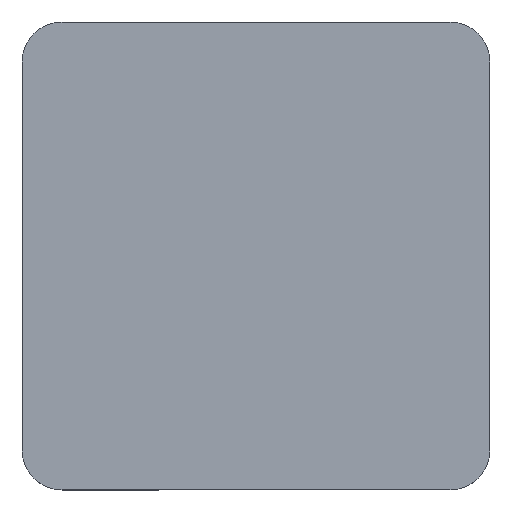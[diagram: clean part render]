
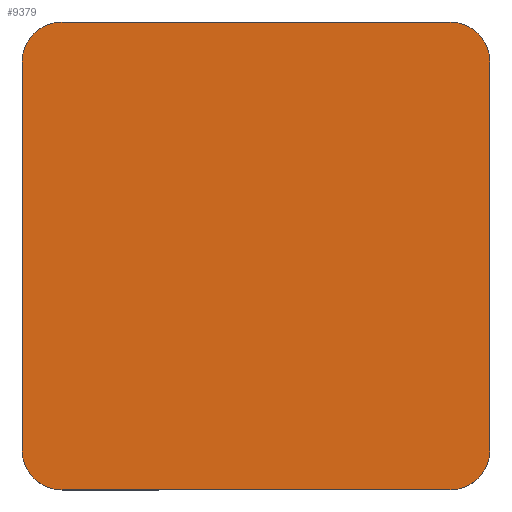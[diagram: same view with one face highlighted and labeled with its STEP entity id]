
A CAD part, top view. The second image highlights one B-rep face of the part: STEP entity #9379.
In plain terms, the highlighted planar face has unit normal (0, 0, 1).
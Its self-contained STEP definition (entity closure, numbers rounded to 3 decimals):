
#290 = CARTESIAN_POINT ( 'NONE',  ( 17.5, -14.5, 0. ) ) ;
#488 = DIRECTION ( 'NONE',  ( 0., 0., 1. ) ) ;
#571 = EDGE_CURVE ( 'NONE', #2721, #18942, #9172, .T. ) ;
#738 = CARTESIAN_POINT ( 'NONE',  ( 14.5, 17.5, 0. ) ) ;
#768 = DIRECTION ( 'NONE',  ( 0., 1., 0. ) ) ;
#829 = CIRCLE ( 'NONE', #15148, 3. ) ;
#1082 = CARTESIAN_POINT ( 'NONE',  ( -17.5, -14.5, 0. ) ) ;
#1237 = LINE ( 'NONE', #2340, #11958 ) ;
#1438 = DIRECTION ( 'NONE',  ( 1., 0., 0. ) ) ;
#1929 = AXIS2_PLACEMENT_3D ( 'NONE', #3299, #14331, #1438 ) ;
#1950 = LINE ( 'NONE', #5724, #17650 ) ;
#2313 = VECTOR ( 'NONE', #768, 1000. ) ;
#2340 = CARTESIAN_POINT ( 'NONE',  ( 14.5, 17.5, 0. ) ) ;
#2441 = DIRECTION ( 'NONE',  ( -1., 0., 0. ) ) ;
#2721 = VERTEX_POINT ( 'NONE', #22578 ) ;
#2837 = CIRCLE ( 'NONE', #1929, 3. ) ;
#3091 = AXIS2_PLACEMENT_3D ( 'NONE', #18835, #488, #4023 ) ;
#3299 = CARTESIAN_POINT ( 'NONE',  ( 14.5, 14.5, 0. ) ) ;
#3587 = ORIENTED_EDGE ( 'NONE', *, *, #3967, .T. ) ;
#3830 = CARTESIAN_POINT ( 'NONE',  ( -14.5, -14.5, 0. ) ) ;
#3967 = EDGE_CURVE ( 'NONE', #9363, #20177, #13646, .T. ) ;
#4023 = DIRECTION ( 'NONE',  ( 1., 0., 0. ) ) ;
#4866 = EDGE_CURVE ( 'NONE', #20177, #16944, #2837, .T. ) ;
#5143 = ORIENTED_EDGE ( 'NONE', *, *, #13685, .T. ) ;
#5186 = ORIENTED_EDGE ( 'NONE', *, *, #15659, .T. ) ;
#5536 = CARTESIAN_POINT ( 'NONE',  ( -17.5, -14.5, 0. ) ) ;
#5724 = CARTESIAN_POINT ( 'NONE',  ( 14.5, -17.5, 0. ) ) ;
#6272 = EDGE_CURVE ( 'NONE', #17617, #18172, #14641, .T. ) ;
#6996 = ORIENTED_EDGE ( 'NONE', *, *, #14053, .T. ) ;
#7668 = CARTESIAN_POINT ( 'NONE',  ( -17.5, 14.5, 0. ) ) ;
#7750 = CARTESIAN_POINT ( 'NONE',  ( 14.5, -14.5, 0. ) ) ;
#7816 = EDGE_CURVE ( 'NONE', #18942, #17617, #16911, .T. ) ;
#8063 = CARTESIAN_POINT ( 'NONE',  ( 17.5, -14.5, 0. ) ) ;
#9172 = CIRCLE ( 'NONE', #3091, 3. ) ;
#9363 = VERTEX_POINT ( 'NONE', #290 ) ;
#9379 = ADVANCED_FACE ( 'NONE', ( #17618 ), #24065, .F. ) ;
#9806 = DIRECTION ( 'NONE',  ( 0., 0., 1. ) ) ;
#10708 = CARTESIAN_POINT ( 'NONE',  ( -14.5, -17.5, 0. ) ) ;
#11151 = ORIENTED_EDGE ( 'NONE', *, *, #6272, .T. ) ;
#11365 = DIRECTION ( 'NONE',  ( -1., 0., 0. ) ) ;
#11516 = EDGE_LOOP ( 'NONE', ( #11151, #6996, #5143, #3587, #17864, #5186, #15550, #13356 ) ) ;
#11958 = VECTOR ( 'NONE', #14511, 1000. ) ;
#13243 = DIRECTION ( 'NONE',  ( 0., 0., -1. ) ) ;
#13356 = ORIENTED_EDGE ( 'NONE', *, *, #7816, .T. ) ;
#13646 = LINE ( 'NONE', #8063, #2313 ) ;
#13685 = EDGE_CURVE ( 'NONE', #17302, #9363, #829, .T. ) ;
#14053 = EDGE_CURVE ( 'NONE', #18172, #17302, #1950, .T. ) ;
#14331 = DIRECTION ( 'NONE',  ( 0., 0., 1. ) ) ;
#14511 = DIRECTION ( 'NONE',  ( -1., 0., 0. ) ) ;
#14526 = AXIS2_PLACEMENT_3D ( 'NONE', #15196, #9806, #2441 ) ;
#14562 = VECTOR ( 'NONE', #14792, 1000. ) ;
#14641 = CIRCLE ( 'NONE', #14526, 3. ) ;
#14792 = DIRECTION ( 'NONE',  ( 0., -1., 0. ) ) ;
#14885 = DIRECTION ( 'NONE',  ( -1., 0., 0. ) ) ;
#15148 = AXIS2_PLACEMENT_3D ( 'NONE', #7750, #22410, #14885 ) ;
#15196 = CARTESIAN_POINT ( 'NONE',  ( -14.5, -14.5, 0. ) ) ;
#15550 = ORIENTED_EDGE ( 'NONE', *, *, #571, .T. ) ;
#15659 = EDGE_CURVE ( 'NONE', #16944, #2721, #1237, .T. ) ;
#15789 = AXIS2_PLACEMENT_3D ( 'NONE', #3830, #13243, #11365 ) ;
#16420 = CARTESIAN_POINT ( 'NONE',  ( 17.5, 14.5, 0. ) ) ;
#16551 = CARTESIAN_POINT ( 'NONE',  ( 14.5, -17.5, 0. ) ) ;
#16911 = LINE ( 'NONE', #5536, #14562 ) ;
#16944 = VERTEX_POINT ( 'NONE', #738 ) ;
#17302 = VERTEX_POINT ( 'NONE', #16551 ) ;
#17617 = VERTEX_POINT ( 'NONE', #1082 ) ;
#17618 = FACE_OUTER_BOUND ( 'NONE', #11516, .T. ) ;
#17650 = VECTOR ( 'NONE', #22431, 1000. ) ;
#17864 = ORIENTED_EDGE ( 'NONE', *, *, #4866, .T. ) ;
#18172 = VERTEX_POINT ( 'NONE', #10708 ) ;
#18835 = CARTESIAN_POINT ( 'NONE',  ( -14.5, 14.5, 0. ) ) ;
#18942 = VERTEX_POINT ( 'NONE', #7668 ) ;
#20177 = VERTEX_POINT ( 'NONE', #16420 ) ;
#22410 = DIRECTION ( 'NONE',  ( 0., 0., 1. ) ) ;
#22431 = DIRECTION ( 'NONE',  ( 1., 0., 0. ) ) ;
#22578 = CARTESIAN_POINT ( 'NONE',  ( -14.5, 17.5, 0. ) ) ;
#24065 = PLANE ( 'NONE',  #15789 ) ;
